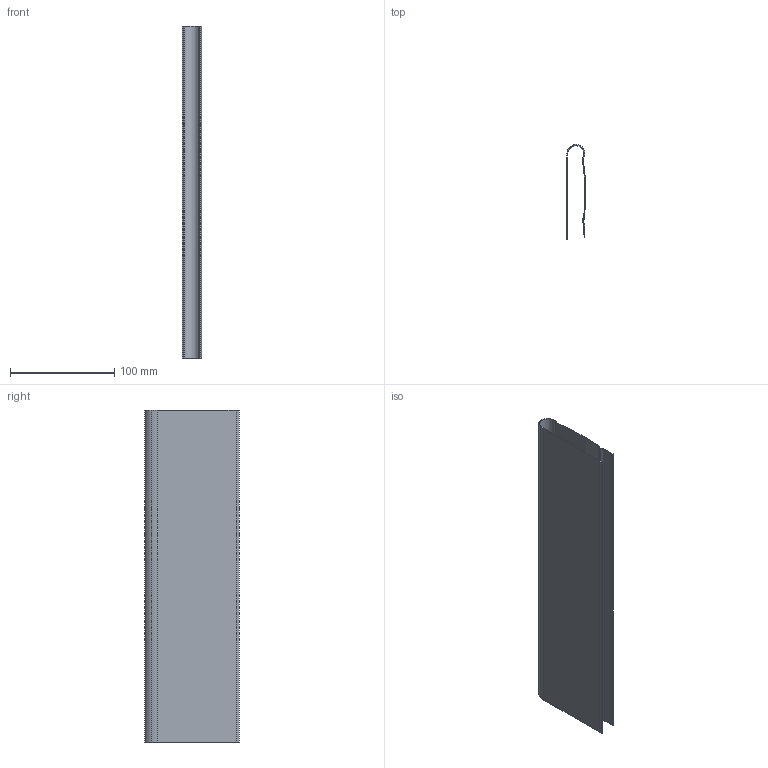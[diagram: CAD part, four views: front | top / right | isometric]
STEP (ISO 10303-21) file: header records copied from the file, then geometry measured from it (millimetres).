
FILE_DESCRIPTION (( 'STEP AP214' ), '1' );
FILE_NAME ('_Duowing NL350.step', '2010-07-14T13:30:46', ( 'grass' ), ( '' ), 'SwSTEP 2.0', 'SolidWorks 2010', '' );
FILE_SCHEMA (( 'AUTOMOTIVE_DESIGN' ));
Length unit declared in the file: millimetre
Products named in the file (1): _Duowing NL350
Bounding box: 18.64 x 90.48 x 318 mm (x, y, z)
Volume: 45023.8 mm3; surface area: 120823.5 mm2
Topology: 1 solids, 1 shells, 54 faces, 108 edges, 56 vertices
Faces by surface type: plane 36, cylinder 18
Entity records: 1378 total; most frequent: DIRECTION 254, CARTESIAN_POINT 219, ORIENTED_EDGE 216, EDGE_CURVE 108, AXIS2_PLACEMENT_3D 91, LINE 72, VECTOR 72, VERTEX_POINT 56
